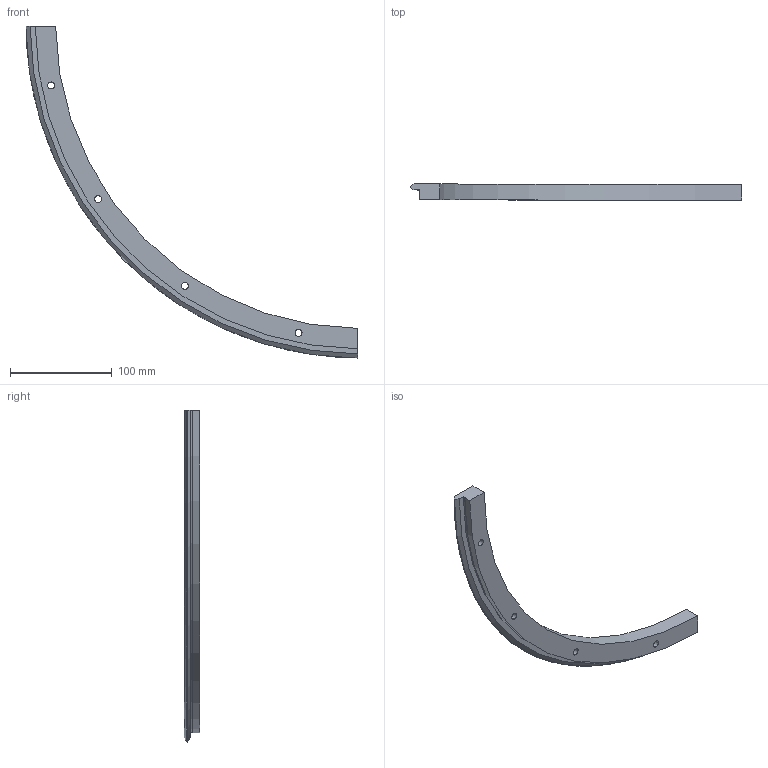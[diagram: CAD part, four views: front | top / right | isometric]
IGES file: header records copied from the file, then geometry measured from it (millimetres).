
Start section: 3D InterOp IGES (v. 2020 1.0.1), Spatial Corp. Copyright (c) 1999-2017.
Global section: file name: rem_655_r90.igs; native system: Spatial Corp.; preprocessor: 3D InterOp ACIS/IGES; author: TraceParts; organization: TraceParts S.A.; date: 20220624.102202; units: millimetre
Bounding box: 325.85 x 15.5 x 325.85 mm (x, y, z)
Surface area: 44067 mm2 (no closed solid volume)
Topology: 0 solids, 0 shells, 33 faces, 162 edges, 162 vertices
Faces by surface type: revolution 23, extrusion 10
